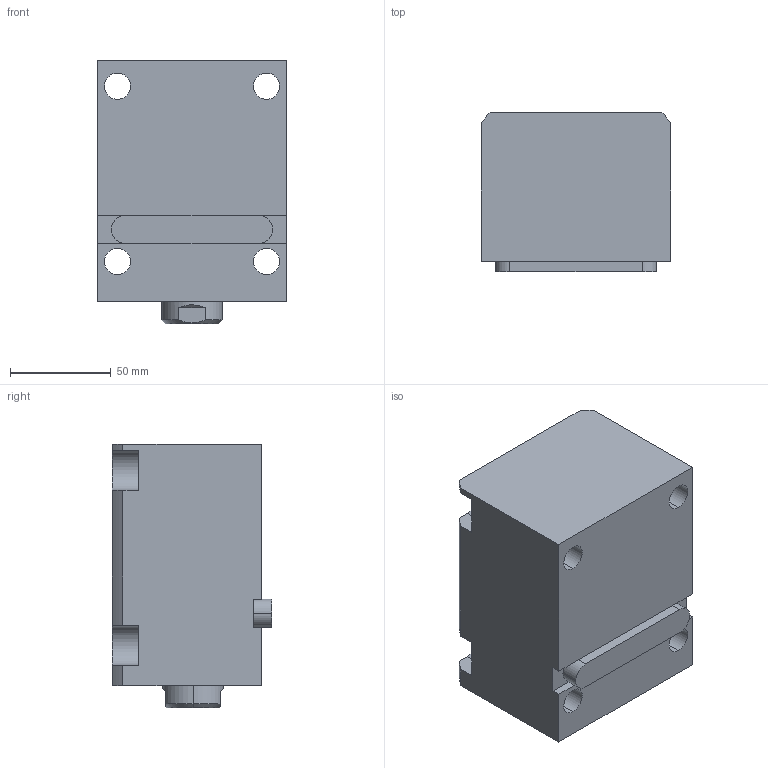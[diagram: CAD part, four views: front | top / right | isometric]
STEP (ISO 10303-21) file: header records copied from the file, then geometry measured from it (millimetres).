
FILE_DESCRIPTION (( 'STEP AP203' ), '1' );
FILE_NAME ('CHTB-LA50-60N.STEP', '2018-05-18T01:39:08', ( '' ), ( '' ), 'SwSTEP 2.0', 'SolidWorks 2015', '' );
FILE_SCHEMA (( 'CONFIG_CONTROL_DESIGN' ));
Length unit declared in the file: millimetre
Products named in the file (4): 掛极LA50-60N; 活塞杆LA50-60N; CHTB-LA50-60N; CHTM-SDMA50QG
Assembly tree (3 placements, depth 2):
  CHTB-LA50-60N
    掛极LA50-60N
    活塞杆LA50-60N
    CHTM-SDMA50QG
Bounding box: 94 x 79 x 131 mm (x, y, z)
Volume: 703122 mm3; surface area: 118517 mm2
Topology: 3 solids, 3 shells, 202 faces, 542 edges, 358 vertices
Faces by surface type: cylinder 96, plane 53, cone 23, torus 16, bspline 14
Entity records: 11255 total; most frequent: CARTESIAN_POINT 5992, ORIENTED_EDGE 1072, DIRECTION 958, EDGE_CURVE 536, AXIS2_PLACEMENT_3D 377, VERTEX_POINT 358, EDGE_LOOP 234, LINE 204
